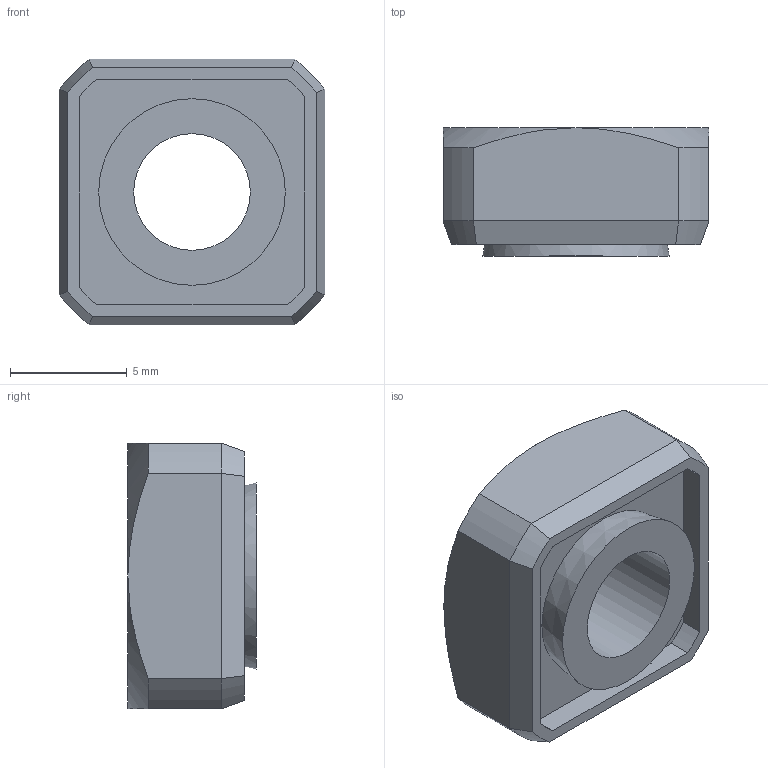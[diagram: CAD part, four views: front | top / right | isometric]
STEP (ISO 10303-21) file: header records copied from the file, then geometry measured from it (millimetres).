
FILE_DESCRIPTION(/* description */ (''),/* implementation_level */ '2;1');
FILE_NAME(/* name */ 'D:\Sukhmani\Fastit\KP Nut\KP 5-S.stp',/* time_stamp */ '2024-03-14T12:25:12+06:00',/* author */ ('edc.sukhmani'),/* organization */ (''),/* preprocessor_version */ 'ST-DEVELOPER v18.1',/* originating_system */ 'Autodesk Inventor 2022',/* authorisation */ '');
FILE_SCHEMA (('AUTOMOTIVE_DESIGN { 1 0 10303 214 3 1 1 }'));
Length unit declared in the file: millimetre
Products named in the file (1): KP 5-S
Bounding box: 11.4 x 5.5 x 11.4 mm (x, y, z)
Volume: 483.9 mm3; surface area: 563.6 mm2
Topology: 1 solids, 1 shells, 36 faces, 84 edges, 52 vertices
Faces by surface type: plane 16, cone 10, cylinder 10
Full cylindrical faces by diameter (mm): 5 x1, 6 x1
Entity records: 1055 total; most frequent: CARTESIAN_POINT 205, DIRECTION 174, ORIENTED_EDGE 168, EDGE_CURVE 84, AXIS2_PLACEMENT_3D 69, VERTEX_POINT 52, EDGE_LOOP 40, FACE_OUTER_BOUND 36
